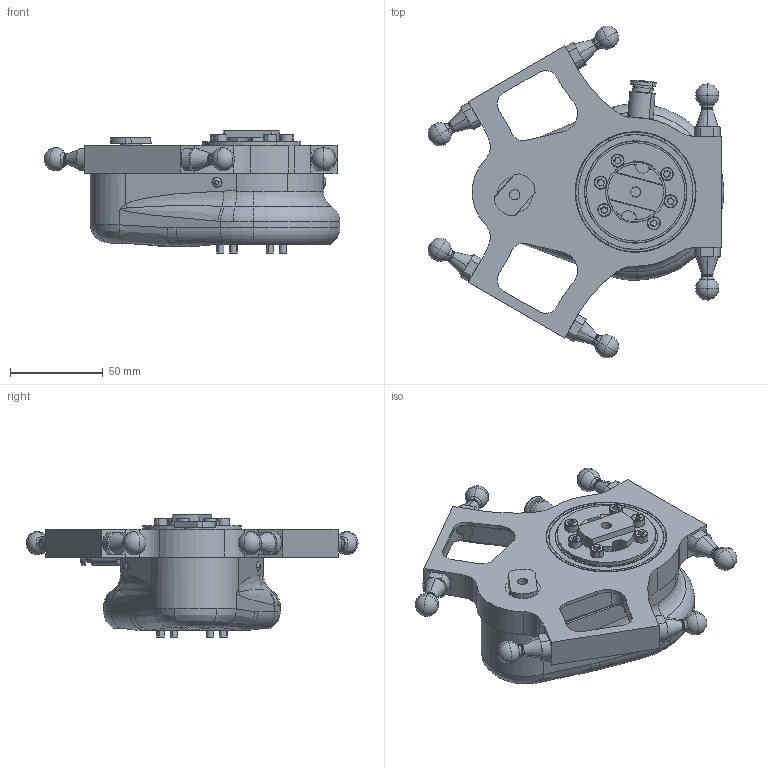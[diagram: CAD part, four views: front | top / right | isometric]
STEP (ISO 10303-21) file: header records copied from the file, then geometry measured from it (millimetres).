
FILE_DESCRIPTION (( 'STEP AP214' ), '1' );
FILE_NAME ('IRB365_1.5-1300_OmniCore_rev00_DELTA_UNIT_1_CAD.step', '2025-09-09T11:52:08', ( '' ), ( '' ), 'SwSTEP 2.0', 'SolidWorks 2024', '' );
FILE_SCHEMA (( 'AUTOMOTIVE_DESIGN' ));
Length unit declared in the file: millimetre
Products named in the file (1): IRB365_1.5-1300_OmniCore_rev00_DELTA_UNIT_1_CAD
Bounding box: 159.22 x 178.78 x 65.7 mm (x, y, z)
Volume: 331383.3 mm3; surface area: 82890.7 mm2
Topology: 1 solids, 1 shells, 744 faces, 1851 edges, 1113 vertices
Faces by surface type: cylinder 309, plane 221, torus 108, bspline 52, sphere 30, cone 24
Entity records: 33351 total; most frequent: CARTESIAN_POINT 7847, DIRECTION 3794, ORIENTED_EDGE 3610, EDGE_CURVE 1805, AXIS2_PLACEMENT_3D 1542, VERTEX_POINT 1101, CIRCLE 849, EDGE_LOOP 794
